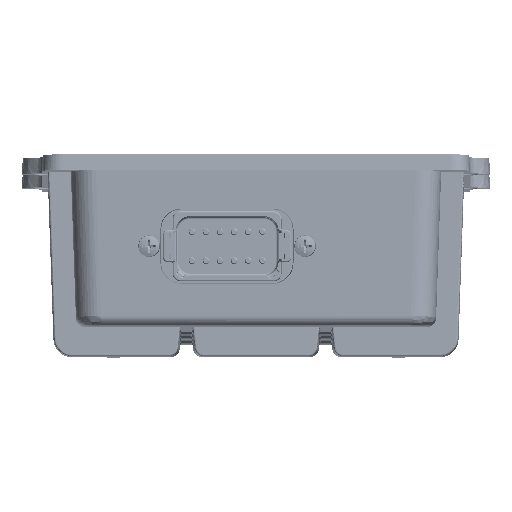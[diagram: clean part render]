
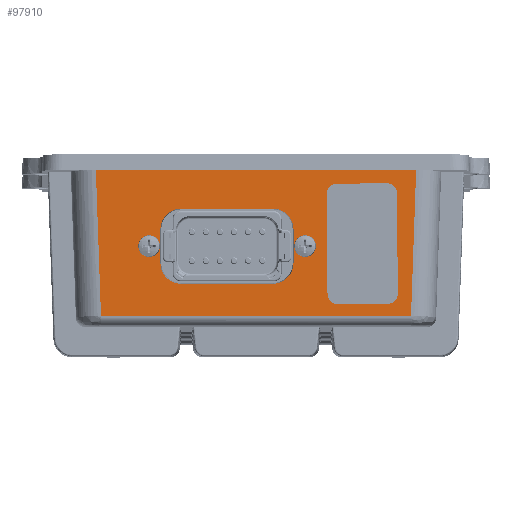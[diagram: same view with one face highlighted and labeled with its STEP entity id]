
A CAD part, top view. The second image highlights one B-rep face of the part: STEP entity #97910.
In plain terms, the highlighted planar face has unit normal (0, 0, 1) as drawn and (-0.999, -0.035, 0) by its records, which use the part's own axes.
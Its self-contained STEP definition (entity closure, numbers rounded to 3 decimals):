
#262 = DIRECTION ( 'NONE',  ( 0.035, -0.999, 0. ) ) ;
#881 = AXIS2_PLACEMENT_3D ( 'NONE', #3892, #233912, #172010 ) ;
#3892 = CARTESIAN_POINT ( 'NONE',  ( -95.151, 17.354, 5.258 ) ) ;
#5597 = CARTESIAN_POINT ( 'NONE',  ( -94.921, 10.755, 5.258 ) ) ;
#9002 = VECTOR ( 'NONE', #51348, 1000. ) ;
#13292 = CIRCLE ( 'NONE', #94934, 2.222 ) ;
#14116 = DIRECTION ( 'NONE',  ( 0.035, -0.999, 0. ) ) ;
#22273 = EDGE_CURVE ( 'NONE', #96323, #75293, #131807, .T. ) ;
#22430 = CIRCLE ( 'NONE', #881, 6.604 ) ;
#23340 = VECTOR ( 'NONE', #89226, 1000. ) ;
#24351 = CARTESIAN_POINT ( 'NONE',  ( -95.75, 34.514, 5.258 ) ) ;
#29181 = VECTOR ( 'NONE', #134478, 1000. ) ;
#29957 = EDGE_CURVE ( 'NONE', #34779, #54613, #145424, .T. ) ;
#32203 = CIRCLE ( 'NONE', #131076, 6.604 ) ;
#33909 = EDGE_CURVE ( 'NONE', #54613, #169163, #86309, .T. ) ;
#34647 = CIRCLE ( 'NONE', #258191, 2.222 ) ;
#34779 = VERTEX_POINT ( 'NONE', #159735 ) ;
#37844 = CARTESIAN_POINT ( 'NONE',  ( -95.52, 27.914, 11.862 ) ) ;
#39097 = EDGE_CURVE ( 'NONE', #169163, #129645, #211613, .T. ) ;
#39430 = VECTOR ( 'NONE', #230141, 1000. ) ;
#47886 = DIRECTION ( 'NONE',  ( 0.035, -0.999, 0. ) ) ;
#48692 = FACE_OUTER_BOUND ( 'NONE', #145381, .T. ) ;
#51348 = DIRECTION ( 'NONE',  ( 0., 0., -1. ) ) ;
#53230 = ORIENTED_EDGE ( 'NONE', *, *, #180998, .F. ) ;
#54613 = VERTEX_POINT ( 'NONE', #150244 ) ;
#54851 = CIRCLE ( 'NONE', #213618, 2.222 ) ;
#55409 = DIRECTION ( 'NONE',  ( 0.035, -0.999, -0.035 ) ) ;
#55433 = EDGE_CURVE ( 'NONE', #101811, #200546, #155306, .T. ) ;
#57766 = ORIENTED_EDGE ( 'NONE', *, *, #39097, .T. ) ;
#62668 = CARTESIAN_POINT ( 'NONE',  ( -95.336, 22.634, -33.795 ) ) ;
#64989 = CARTESIAN_POINT ( 'NONE',  ( -94.564, 0.533, -49.001 ) ) ;
#68867 = PLANE ( 'NONE',  #213930 ) ;
#69553 = CARTESIAN_POINT ( 'NONE',  ( -94.921, 10.755, 5.258 ) ) ;
#71066 = LINE ( 'NONE', #153053, #230528 ) ;
#71828 = VERTEX_POINT ( 'NONE', #132620 ) ;
#75293 = VERTEX_POINT ( 'NONE', #64989 ) ;
#79675 = ORIENTED_EDGE ( 'NONE', *, *, #237645, .T. ) ;
#84891 = ORIENTED_EDGE ( 'NONE', *, *, #156899, .T. ) ;
#86309 = CIRCLE ( 'NONE', #262421, 6.604 ) ;
#86510 = VECTOR ( 'NONE', #55409, 1000. ) ;
#86909 = CARTESIAN_POINT ( 'NONE',  ( -95.52, 27.914, -30.226 ) ) ;
#89226 = DIRECTION ( 'NONE',  ( 0.035, -0.999, 0. ) ) ;
#90552 = CIRCLE ( 'NONE', #167901, 6.604 ) ;
#90666 = CARTESIAN_POINT ( 'NONE',  ( -95.151, 17.354, -30.226 ) ) ;
#91315 = CARTESIAN_POINT ( 'NONE',  ( -94.564, 0.533, 49.001 ) ) ;
#94934 = AXIS2_PLACEMENT_3D ( 'NONE', #124617, #166269, #47886 ) ;
#96323 = VERTEX_POINT ( 'NONE', #91315 ) ;
#97513 = CARTESIAN_POINT ( 'NONE',  ( -95.336, 22.634, -33.795 ) ) ;
#97910 = ADVANCED_FACE ( 'NONE', ( #175054, #253169, #114537, #48692 ), #68867, .T. ) ;
#99920 = CARTESIAN_POINT ( 'NONE',  ( -96.173, 46.609, 50.61 ) ) ;
#101811 = VERTEX_POINT ( 'NONE', #99920 ) ;
#102545 = ORIENTED_EDGE ( 'NONE', *, *, #55433, .T. ) ;
#102773 = EDGE_CURVE ( 'NONE', #127660, #111810, #214103, .T. ) ;
#111810 = VERTEX_POINT ( 'NONE', #155108 ) ;
#114537 = FACE_BOUND ( 'NONE', #263762, .T. ) ;
#119311 = ORIENTED_EDGE ( 'NONE', *, *, #237827, .T. ) ;
#121168 = VECTOR ( 'NONE', #213246, 1000. ) ;
#121235 = ORIENTED_EDGE ( 'NONE', *, *, #246649, .T. ) ;
#121659 = CARTESIAN_POINT ( 'NONE',  ( -95.52, 27.914, 5.258 ) ) ;
#124617 = CARTESIAN_POINT ( 'NONE',  ( -95.336, 22.634, 15.507 ) ) ;
#125402 = DIRECTION ( 'NONE',  ( 0.999, 0.035, 0. ) ) ;
#127660 = VERTEX_POINT ( 'NONE', #69553 ) ;
#129205 = DIRECTION ( 'NONE',  ( 0.999, 0.035, 0. ) ) ;
#129645 = VERTEX_POINT ( 'NONE', #259491 ) ;
#131076 = AXIS2_PLACEMENT_3D ( 'NONE', #143068, #129205, #251625 ) ;
#131807 = LINE ( 'NONE', #213868, #29181 ) ;
#132620 = CARTESIAN_POINT ( 'NONE',  ( -95.258, 20.414, 15.507 ) ) ;
#134478 = DIRECTION ( 'NONE',  ( 0., 0., -1. ) ) ;
#136080 = CARTESIAN_POINT ( 'NONE',  ( -94.44, -3.019, 48.877 ) ) ;
#137057 = CARTESIAN_POINT ( 'NONE',  ( -95.151, 17.354, -23.622 ) ) ;
#141194 = ORIENTED_EDGE ( 'NONE', *, *, #22273, .F. ) ;
#142574 = ORIENTED_EDGE ( 'NONE', *, *, #263931, .T. ) ;
#143068 = CARTESIAN_POINT ( 'NONE',  ( -95.52, 27.914, -23.622 ) ) ;
#143347 = DIRECTION ( 'NONE',  ( 0.035, -0.999, 0. ) ) ;
#143639 = ORIENTED_EDGE ( 'NONE', *, *, #221426, .T. ) ;
#145381 = EDGE_LOOP ( 'NONE', ( #53230, #102545, #208153, #141194 ) ) ;
#145385 = CARTESIAN_POINT ( 'NONE',  ( -95.413, 24.855, -33.795 ) ) ;
#145424 = LINE ( 'NONE', #24351, #39430 ) ;
#145772 = CARTESIAN_POINT ( 'NONE',  ( -95.52, 27.914, 11.862 ) ) ;
#146630 = EDGE_CURVE ( 'NONE', #154467, #71828, #54851, .T. ) ;
#148878 = VERTEX_POINT ( 'NONE', #90666 ) ;
#150049 = CARTESIAN_POINT ( 'NONE',  ( -95.258, 20.414, -33.795 ) ) ;
#150244 = CARTESIAN_POINT ( 'NONE',  ( -95.75, 34.514, 5.258 ) ) ;
#150865 = DIRECTION ( 'NONE',  ( -0.035, 0.999, 0. ) ) ;
#151821 = ORIENTED_EDGE ( 'NONE', *, *, #146630, .T. ) ;
#152187 = CARTESIAN_POINT ( 'NONE',  ( -94.545, -0.001, 56.833 ) ) ;
#153053 = CARTESIAN_POINT ( 'NONE',  ( -94.485, -1.708, -48.923 ) ) ;
#154467 = VERTEX_POINT ( 'NONE', #258086 ) ;
#154651 = CARTESIAN_POINT ( 'NONE',  ( -95.52, 27.914, -30.226 ) ) ;
#155108 = CARTESIAN_POINT ( 'NONE',  ( -94.921, 10.755, -23.622 ) ) ;
#155306 = LINE ( 'NONE', #217215, #160696 ) ;
#155896 = DIRECTION ( 'NONE',  ( 0.035, -0.999, 0. ) ) ;
#156899 = EDGE_CURVE ( 'NONE', #71828, #154467, #13292, .T. ) ;
#159735 = CARTESIAN_POINT ( 'NONE',  ( -95.75, 34.514, -23.622 ) ) ;
#160696 = VECTOR ( 'NONE', #237406, 1000. ) ;
#162192 = DIRECTION ( 'NONE',  ( 0.999, 0.035, 0. ) ) ;
#166269 = DIRECTION ( 'NONE',  ( 0.999, 0.035, 0. ) ) ;
#167901 = AXIS2_PLACEMENT_3D ( 'NONE', #137057, #196274, #155896 ) ;
#169163 = VERTEX_POINT ( 'NONE', #37844 ) ;
#172010 = DIRECTION ( 'NONE',  ( 0.035, -0.999, 0. ) ) ;
#172356 = EDGE_LOOP ( 'NONE', ( #142574, #207146 ) ) ;
#173823 = DIRECTION ( 'NONE',  ( 0.035, -0.999, 0. ) ) ;
#174427 = ORIENTED_EDGE ( 'NONE', *, *, #29957, .T. ) ;
#175054 = FACE_BOUND ( 'NONE', #172356, .T. ) ;
#176790 = ORIENTED_EDGE ( 'NONE', *, *, #33909, .T. ) ;
#179536 = DIRECTION ( 'NONE',  ( 0.999, 0.035, 0. ) ) ;
#179573 = DIRECTION ( 'NONE',  ( 0.999, 0.035, 0. ) ) ;
#180998 = EDGE_CURVE ( 'NONE', #101811, #96323, #261184, .T. ) ;
#187676 = CIRCLE ( 'NONE', #256479, 2.222 ) ;
#196274 = DIRECTION ( 'NONE',  ( 0.999, 0.035, 0. ) ) ;
#200546 = VERTEX_POINT ( 'NONE', #240341 ) ;
#201774 = EDGE_LOOP ( 'NONE', ( #151821, #84891 ) ) ;
#207146 = ORIENTED_EDGE ( 'NONE', *, *, #253503, .T. ) ;
#208153 = ORIENTED_EDGE ( 'NONE', *, *, #253009, .F. ) ;
#211613 = LINE ( 'NONE', #145772, #23340 ) ;
#212232 = VERTEX_POINT ( 'NONE', #145385 ) ;
#212324 = VERTEX_POINT ( 'NONE', #154651 ) ;
#213246 = DIRECTION ( 'NONE',  ( -0.035, 0.999, 0. ) ) ;
#213618 = AXIS2_PLACEMENT_3D ( 'NONE', #223649, #125402, #262 ) ;
#213868 = CARTESIAN_POINT ( 'NONE',  ( -94.564, 0.533, 56.833 ) ) ;
#213930 = AXIS2_PLACEMENT_3D ( 'NONE', #152187, #215453, #150865 ) ;
#214103 = LINE ( 'NONE', #5597, #9002 ) ;
#215453 = DIRECTION ( 'NONE',  ( -0.999, -0.035, 0. ) ) ;
#215928 = LINE ( 'NONE', #86909, #121168 ) ;
#216323 = DIRECTION ( 'NONE',  ( -0.035, 0.999, -0.035 ) ) ;
#217215 = CARTESIAN_POINT ( 'NONE',  ( -96.173, 46.609, 28.416 ) ) ;
#221426 = EDGE_CURVE ( 'NONE', #111810, #148878, #90552, .T. ) ;
#223649 = CARTESIAN_POINT ( 'NONE',  ( -95.336, 22.634, 15.507 ) ) ;
#230141 = DIRECTION ( 'NONE',  ( 0., 0., 1. ) ) ;
#230528 = VECTOR ( 'NONE', #216323, 1000. ) ;
#231553 = VERTEX_POINT ( 'NONE', #150049 ) ;
#233912 = DIRECTION ( 'NONE',  ( 0.999, 0.035, 0. ) ) ;
#237406 = DIRECTION ( 'NONE',  ( 0., 0., -1. ) ) ;
#237645 = EDGE_CURVE ( 'NONE', #129645, #127660, #22430, .T. ) ;
#237827 = EDGE_CURVE ( 'NONE', #148878, #212324, #215928, .T. ) ;
#240341 = CARTESIAN_POINT ( 'NONE',  ( -96.173, 46.609, -50.61 ) ) ;
#246649 = EDGE_CURVE ( 'NONE', #212324, #34779, #32203, .T. ) ;
#251625 = DIRECTION ( 'NONE',  ( 0.035, -0.999, 0. ) ) ;
#253009 = EDGE_CURVE ( 'NONE', #75293, #200546, #71066, .T. ) ;
#253169 = FACE_BOUND ( 'NONE', #201774, .T. ) ;
#253503 = EDGE_CURVE ( 'NONE', #231553, #212232, #187676, .T. ) ;
#256479 = AXIS2_PLACEMENT_3D ( 'NONE', #97513, #179573, #173823 ) ;
#258086 = CARTESIAN_POINT ( 'NONE',  ( -95.413, 24.855, 15.507 ) ) ;
#258191 = AXIS2_PLACEMENT_3D ( 'NONE', #62668, #162192, #143347 ) ;
#259491 = CARTESIAN_POINT ( 'NONE',  ( -95.151, 17.354, 11.862 ) ) ;
#261184 = LINE ( 'NONE', #136080, #86510 ) ;
#262421 = AXIS2_PLACEMENT_3D ( 'NONE', #121659, #179536, #14116 ) ;
#263134 = ORIENTED_EDGE ( 'NONE', *, *, #102773, .T. ) ;
#263762 = EDGE_LOOP ( 'NONE', ( #174427, #176790, #57766, #79675, #263134, #143639, #119311, #121235 ) ) ;
#263931 = EDGE_CURVE ( 'NONE', #212232, #231553, #34647, .T. ) ;
